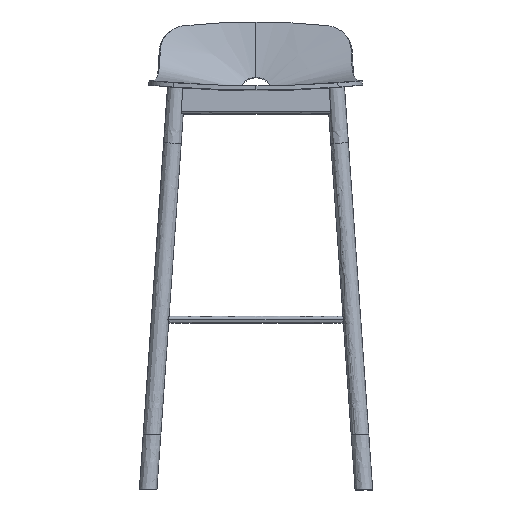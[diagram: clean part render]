
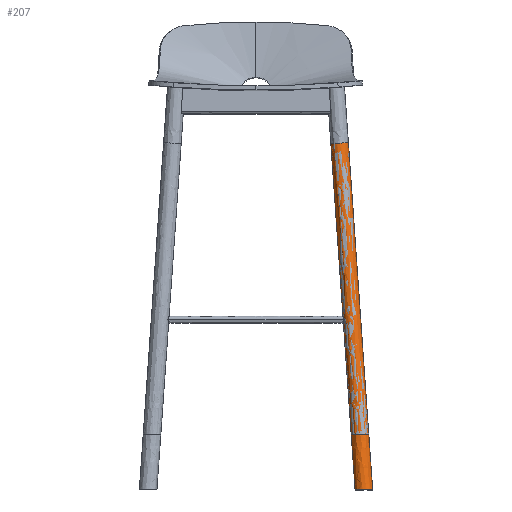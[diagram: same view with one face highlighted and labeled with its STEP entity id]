
A CAD part, front view. The second image highlights one B-rep face of the part: STEP entity #207.
In plain terms, the highlighted free-form (B-spline) face has degree [2, 1] with [5, 2] control points.
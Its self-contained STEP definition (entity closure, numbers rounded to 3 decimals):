
#207=ADVANCED_FACE('',(#296),#1385,.T.);
#296=FACE_OUTER_BOUND('',#385,.T.);
#385=EDGE_LOOP('',(#478,#479,#480,#481));
#478=ORIENTED_EDGE('',*,*,#858,.T.);
#479=ORIENTED_EDGE('',*,*,#859,.T.);
#480=ORIENTED_EDGE('',*,*,#855,.F.);
#481=ORIENTED_EDGE('',*,*,#856,.T.);
#855=EDGE_CURVE('',#1253,#1252,#1091,.T.);
#856=EDGE_CURVE('',#1253,#1255,#1053,.T.);
#858=EDGE_CURVE('',#1255,#1254,#1093,.T.);
#859=EDGE_CURVE('',#1254,#1252,#1054,.T.);
#1053=(
BOUNDED_CURVE()
B_SPLINE_CURVE(1,(#2940,#2941),.UNSPECIFIED.,.F.,.F.)
B_SPLINE_CURVE_WITH_KNOTS((2,2),(-1526.738,-873.182),
 .UNSPECIFIED.)
CURVE()
GEOMETRIC_REPRESENTATION_ITEM()
RATIONAL_B_SPLINE_CURVE((1.,1.))
REPRESENTATION_ITEM('')
);
#1054=(
BOUNDED_CURVE()
B_SPLINE_CURVE(1,(#2980,#2981),.UNSPECIFIED.,.F.,.F.)
B_SPLINE_CURVE_WITH_KNOTS((2,2),(870.868,1527.124),
 .UNSPECIFIED.)
CURVE()
GEOMETRIC_REPRESENTATION_ITEM()
RATIONAL_B_SPLINE_CURVE((1.,1.))
REPRESENTATION_ITEM('')
);
#1091=B_SPLINE_CURVE_WITH_KNOTS('',3,(#2904,#2905,#2906,#2907,#2908,#2909,
#2910,#2911,#2912,#2913,#2914,#2915,#2916,#2917,#2918,#2919,#2920,#2921,
#2922,#2923,#2924,#2925,#2926,#2927,#2928,#2929,#2930,#2931,#2932,#2933,
#2934,#2935,#2936,#2937,#2938,#2939),.UNSPECIFIED.,.F.,.F.,(4,2,2,2,2,2,
2,2,2,2,2,2,2,2,2,2,2,4),(-52.439,-46.142,-44.47,
-42.771,-39.334,-32.512,-29.281,
-26.214,-23.147,-21.55,-19.912,
-18.24,-16.541,-13.104,-9.667,
-7.969,-6.297,0.),.UNSPECIFIED.);
#1093=B_SPLINE_CURVE_WITH_KNOTS('',3,(#2961,#2962,#2963,#2964,#2965,#2966,
#2967,#2968,#2969,#2970,#2971,#2972,#2973,#2974,#2975,#2976,#2977,#2978,
#2979),.UNSPECIFIED.,.F.,.F.,(4,2,2,2,3,2,2,2,4),(0.,6.547,13.094,
19.641,26.188,32.715,39.243,45.771,
52.298),.UNSPECIFIED.);
#1252=VERTEX_POINT('',#2870);
#1253=VERTEX_POINT('',#2871);
#1254=VERTEX_POINT('',#2872);
#1255=VERTEX_POINT('',#2873);
#1385=(
BOUNDED_SURFACE()
B_SPLINE_SURFACE(2,1,((#2860,#2861),(#2862,#2863),(#2864,#2865),(#2866,
#2867),(#2868,#2869)),.UNSPECIFIED.,.F.,.F.,.F.)
B_SPLINE_SURFACE_WITH_KNOTS((3,2,3),(2,2),(51.836,77.754,
103.673),(0.,1564.885),.UNSPECIFIED.)
GEOMETRIC_REPRESENTATION_ITEM()
RATIONAL_B_SPLINE_SURFACE(((1.,1.),(0.707,0.707),
(1.,1.),(0.707,0.707),(1.,1.)))
REPRESENTATION_ITEM('')
SURFACE()
);
#2860=CARTESIAN_POINT('',(239.109,-279.209,-869.706));
#2861=CARTESIAN_POINT('',(130.214,-170.048,687.565));
#2862=CARTESIAN_POINT('',(239.028,-295.669,-868.558));
#2863=CARTESIAN_POINT('',(130.133,-186.508,688.713));
#2864=CARTESIAN_POINT('',(255.488,-295.669,-867.407));
#2865=CARTESIAN_POINT('',(146.593,-186.508,689.864));
#2866=CARTESIAN_POINT('',(271.948,-295.669,-866.256));
#2867=CARTESIAN_POINT('',(163.053,-186.508,691.015));
#2868=CARTESIAN_POINT('',(272.028,-279.209,-867.404));
#2869=CARTESIAN_POINT('',(163.133,-170.048,689.867));
#2870=CARTESIAN_POINT('',(165.761,-172.682,652.289));
#2871=CARTESIAN_POINT('',(132.868,-172.709,649.603));
#2872=CARTESIAN_POINT('',(211.428,-218.46,-0.773));
#2873=CARTESIAN_POINT('',(178.347,-218.299,-0.773));
#2904=CARTESIAN_POINT('',(132.868,-172.709,649.603));
#2905=CARTESIAN_POINT('',(132.865,-174.791,649.644));
#2906=CARTESIAN_POINT('',(133.254,-176.851,649.713));
#2907=CARTESIAN_POINT('',(134.217,-179.302,649.831));
#2908=CARTESIAN_POINT('',(134.443,-179.802,649.858));
#2909=CARTESIAN_POINT('',(134.952,-180.793,649.915));
#2910=CARTESIAN_POINT('',(135.232,-181.275,649.945));
#2911=CARTESIAN_POINT('',(136.156,-182.697,650.04));
#2912=CARTESIAN_POINT('',(136.871,-183.582,650.11));
#2913=CARTESIAN_POINT('',(139.259,-185.983,650.332));
#2914=CARTESIAN_POINT('',(141.156,-187.235,650.497));
#2915=CARTESIAN_POINT('',(144.237,-188.458,650.752));
#2916=CARTESIAN_POINT('',(145.263,-188.754,650.836));
#2917=CARTESIAN_POINT('',(147.305,-189.132,650.999));
#2918=CARTESIAN_POINT('',(148.295,-189.222,651.077));
#2919=CARTESIAN_POINT('',(150.317,-189.22,651.235));
#2920=CARTESIAN_POINT('',(151.308,-189.128,651.312));
#2921=CARTESIAN_POINT('',(152.82,-188.845,651.427));
#2922=CARTESIAN_POINT('',(153.33,-188.724,651.466));
#2923=CARTESIAN_POINT('',(154.356,-188.428,651.543));
#2924=CARTESIAN_POINT('',(154.864,-188.254,651.582));
#2925=CARTESIAN_POINT('',(155.879,-187.849,651.657));
#2926=CARTESIAN_POINT('',(156.378,-187.62,651.694));
#2927=CARTESIAN_POINT('',(157.364,-187.106,651.767));
#2928=CARTESIAN_POINT('',(157.845,-186.823,651.802));
#2929=CARTESIAN_POINT('',(159.261,-185.891,651.905));
#2930=CARTESIAN_POINT('',(160.142,-185.171,651.968));
#2931=CARTESIAN_POINT('',(161.743,-183.56,652.08));
#2932=CARTESIAN_POINT('',(162.459,-182.674,652.129));
#2933=CARTESIAN_POINT('',(163.384,-181.251,652.189));
#2934=CARTESIAN_POINT('',(163.664,-180.768,652.207));
#2935=CARTESIAN_POINT('',(164.174,-179.777,652.238));
#2936=CARTESIAN_POINT('',(164.401,-179.276,652.251));
#2937=CARTESIAN_POINT('',(165.367,-176.825,652.304));
#2938=CARTESIAN_POINT('',(165.759,-174.765,652.314));
#2939=CARTESIAN_POINT('',(165.761,-172.682,652.289));
#2940=CARTESIAN_POINT('',(132.868,-172.709,649.603));
#2941=CARTESIAN_POINT('',(178.347,-218.299,-0.773));
#2961=CARTESIAN_POINT('',(178.347,-218.299,-0.773));
#2962=CARTESIAN_POINT('',(178.347,-220.475,-0.773));
#2963=CARTESIAN_POINT('',(178.776,-222.629,-0.773));
#2964=CARTESIAN_POINT('',(180.439,-226.649,-0.773));
#2965=CARTESIAN_POINT('',(181.657,-228.477,-0.773));
#2966=CARTESIAN_POINT('',(184.726,-231.56,-0.773));
#2967=CARTESIAN_POINT('',(186.548,-232.787,-0.773));
#2968=CARTESIAN_POINT('',(190.56,-234.47,-0.773));
#2969=CARTESIAN_POINT('',(192.712,-234.909,-0.773));
#2970=CARTESIAN_POINT('',(194.887,-234.92,-0.773));
#2971=CARTESIAN_POINT('',(197.056,-234.931,-0.773));
#2972=CARTESIAN_POINT('',(199.206,-234.515,-0.773));
#2973=CARTESIAN_POINT('',(203.221,-232.872,-0.773));
#2974=CARTESIAN_POINT('',(205.046,-231.663,-0.773));
#2975=CARTESIAN_POINT('',(208.121,-228.603,-0.773));
#2976=CARTESIAN_POINT('',(209.339,-226.784,-0.773));
#2977=CARTESIAN_POINT('',(211.001,-222.777,-0.773));
#2978=CARTESIAN_POINT('',(211.428,-220.629,-0.773));
#2979=CARTESIAN_POINT('',(211.428,-218.46,-0.773));
#2980=CARTESIAN_POINT('',(211.428,-218.46,-0.773));
#2981=CARTESIAN_POINT('',(165.761,-172.682,652.289));
